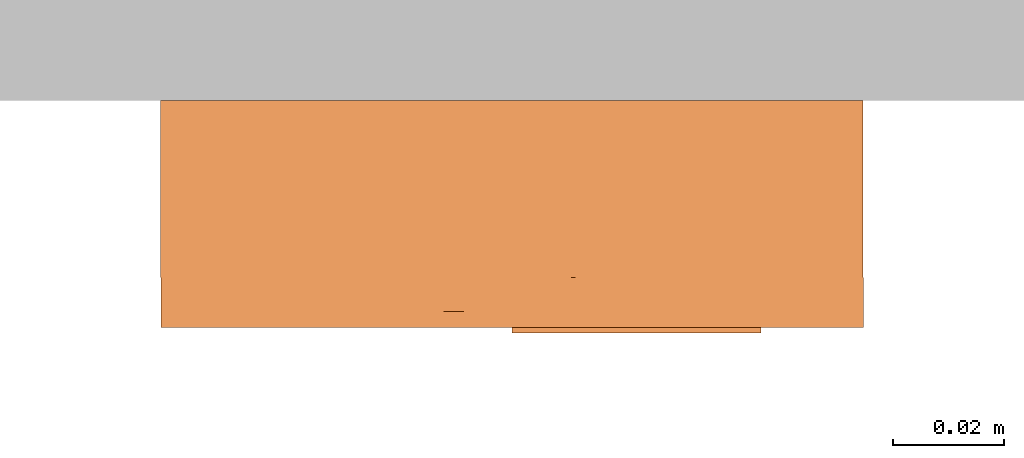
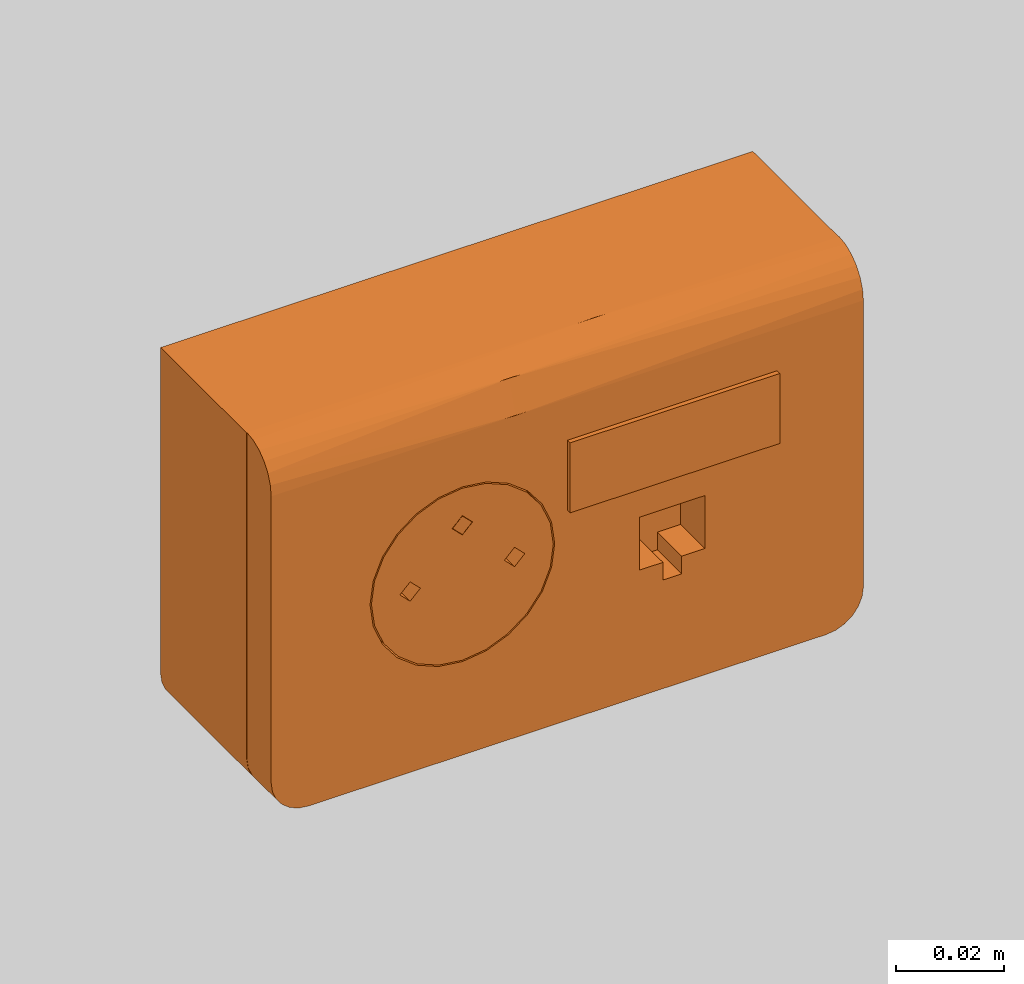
# One storey, part 114 of 197: 1 proxy.
"""IFC2X3 building model written with IfcOpenShell, lengths in metres."""

from ifc_helpers import new_model, entity, si_unit, converted_unit, direction, frame, origin, place, context, subcontext, project, spatial, faceted_brep, source, transform, mapped, material, material_list, type_object, type_shapes, element, save


model = new_model("IFC2X3")

# Units and contexts
model_context = context("Model", 3, precision=1e-05, world=origin(), true_north=direction((6.123031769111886e-17, 1.0)))
body_context = subcontext(model_context, "Body", "Model", "MODEL_VIEW")
ifc_project = project(units=[si_unit("LENGTHUNIT", "METRE"), converted_unit("PLANEANGLEUNIT", "DEGREE", entity("IfcPlaneAngleMeasure", 0.017453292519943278), si_unit("PLANEANGLEUNIT", "RADIAN"), dimensions=[0, 0, 0, 0, 0, 0, 0]), si_unit("AREAUNIT", "SQUARE_METRE")], contexts=[model_context])

# Site, building, storey
site_placement = place(None, origin())
site = spatial("IfcSite", under=ifc_project, at=site_placement, Name="Default", CompositionType="ELEMENT")
building_placement = place(site_placement, origin())
building = spatial("IfcBuilding", under=site, at=building_placement, CompositionType="ELEMENT")
storey_placement = place(building_placement, origin())
storey = spatial("IfcBuildingStorey", under=building, at=storey_placement, Name="Niveau 0", CompositionType="ELEMENT", Elevation=0.0)

# Proxy
ifc_material_1 = material(Name="BETCE-ENJOLIVEUR PC-BLANC")
ifc_material_2 = material(Name="BETCE-ENJOLIVEUR RJ-BLANC")
ifc_material_3 = material(Name="BETCE-PCO-ROUGE")
ifc_material_4 = material(Name="BETCE-ETIQUETTE RJ-BLEU")
ifc_material_5 = material(Name="<Unnamed>")
ifc_material_list = material_list([ifc_material_1, ifc_material_2, ifc_material_3, ifc_material_4, ifc_material_5])
building_element_proxy_type = type_object("IfcBuildingElementProxyType", Name="Poste travail saillie 1x2 modules-1RJ:1PCO+1RJ", PredefinedType="NOTDEFINED", material=ifc_material_list)
shared_shape = source(origin(), body_context, "Body", "Brep", [
    faceted_brep([(0.055499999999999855, -0.03199999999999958, -0.040999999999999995), (0.05757055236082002, -0.031999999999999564, -0.04072740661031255), (0.05949999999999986, -0.03199999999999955, -0.03992820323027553), (0.061156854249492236, -0.03199999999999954, -0.0386568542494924), (0.06242820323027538, -0.03199999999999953, -0.03700000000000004), (0.06322740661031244, -0.03199999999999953, -0.03507055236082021), (0.06349999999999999, -0.03199999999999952, -0.032999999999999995), (0.06349999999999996, -0.03199999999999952, 0.04092306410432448), (-0.06350000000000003, -0.03200000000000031, 0.04092306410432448), (-0.06350000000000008, -0.03200000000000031, -0.032999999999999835), (-0.06322740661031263, -0.03200000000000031, -0.03507055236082), (-0.062428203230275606, -0.032000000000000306, -0.03699999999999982), (-0.06115685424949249, -0.0320000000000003, -0.0386568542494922), (-0.05950000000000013, -0.03200000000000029, -0.03992820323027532), (-0.0575705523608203, -0.03200000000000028, -0.040727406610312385), (-0.05550000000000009, -0.032000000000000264, -0.040999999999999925), (-0.06350000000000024, 0.0, -0.032999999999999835), (-0.06350000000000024, 0.0, 0.04092306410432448), (0.06349999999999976, 0.0, 0.04092306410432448), (0.0634999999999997, 0.0, -0.03299999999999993), (0.06322740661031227, 0.0, -0.0350705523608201), (0.062428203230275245, 0.0, -0.036999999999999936), (0.06115685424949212, 0.0, -0.038656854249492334), (0.059499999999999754, 0.0, -0.039928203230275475), (0.057570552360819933, 0.0, -0.040727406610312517), (0.0554999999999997, 0.0, -0.040999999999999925), (-0.05550000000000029, 0.0, -0.04099999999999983), (-0.05757055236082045, 0.0, -0.040727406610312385), (-0.05950000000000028, 0.0, -0.03992820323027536), (-0.06115685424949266, 0.0, -0.03865685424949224), (-0.062428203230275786, 0.0, -0.03699999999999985), (-0.06322740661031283, 0.0, -0.03507055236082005)], [[[0, 1, 2, 3, 4, 5, 6, 7, 8, 9, 10, 11, 12, 13, 14, 15]], [[16, 17, 18, 19, 20, 21, 22, 23, 24, 25, 26, 27, 28, 29, 30, 31]], [[9, 8, 17, 16]], [[0, 15, 26, 25]], [[7, 6, 19, 18]], [[8, 7, 18, 17]], [[26, 15, 14, 27]], [[27, 14, 13, 28]], [[28, 13, 12, 29]], [[30, 11, 10, 31]], [[31, 10, 9, 16]], [[29, 12, 11, 30]], [[20, 19, 6, 5]], [[21, 20, 5, 4]], [[22, 21, 4, 3]], [[23, 22, 3, 2]], [[24, 23, 2, 1]], [[0, 25, 24, 1]]]),
    faceted_brep([(0.04504803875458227, -0.04099309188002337, 0.02249999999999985), (4.80387545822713e-05, -0.04099309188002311, 0.02249999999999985), (4.803875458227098e-05, -0.04099309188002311, -0.02250000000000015), (0.04504803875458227, -0.04099309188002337, -0.02250000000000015), (0.01554803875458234, -0.040993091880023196, -0.0003655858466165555), (0.022402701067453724, -0.040993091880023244, -0.0003655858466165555), (0.029548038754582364, -0.04099309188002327, -0.0003655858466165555), (0.029548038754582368, -0.04099309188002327, -0.012365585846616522), (0.024548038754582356, -0.04099309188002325, -0.012365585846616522), (0.024548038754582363, -0.04099309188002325, -0.01636558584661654), (0.02054803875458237, -0.04099309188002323, -0.01636558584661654), (0.020548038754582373, -0.04099309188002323, -0.012365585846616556), (0.01554803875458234, -0.040993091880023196, -0.012365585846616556), (0.04504803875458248, -0.002993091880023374, 0.02249999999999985), (0.04504803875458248, -0.002993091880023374, -0.02250000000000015), (4.80387545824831e-05, -0.002993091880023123, -0.02250000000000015), (4.80387545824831e-05, -0.002993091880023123, 0.02249999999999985), (0.01554803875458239, -0.031999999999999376, -0.0003655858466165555), (0.01554803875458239, -0.031999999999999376, -0.012365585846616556), (0.020548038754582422, -0.03199999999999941, -0.012365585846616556), (0.020548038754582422, -0.03199999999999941, -0.01636558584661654), (0.024548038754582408, -0.03199999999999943, -0.01636558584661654), (0.024548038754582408, -0.03199999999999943, -0.012365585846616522), (0.029548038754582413, -0.03199999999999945, -0.012365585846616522), (0.029548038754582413, -0.03199999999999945, -0.0003655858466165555), (0.022402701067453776, -0.03199999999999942, -0.0003655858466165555)], [[[0, 1, 2, 3], [4, 5, 6, 7, 8, 9, 10, 11, 12]], [[13, 14, 15, 16]], [[1, 0, 13, 16]], [[2, 1, 16, 15]], [[3, 2, 15, 14]], [[0, 3, 14, 13]], [[17, 18, 19, 20, 21, 22, 23, 24, 25]], [[17, 25, 5, 4]], [[25, 24, 6, 5]], [[24, 23, 7, 6]], [[23, 22, 8, 7]], [[22, 21, 9, 8]], [[21, 20, 10, 9]], [[20, 19, 11, 10]], [[19, 18, 12, 11]], [[18, 17, 4, 12]]]),
    faceted_brep([(-0.042951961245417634, -0.031999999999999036, 0.020499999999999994), (-0.042951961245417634, -0.031999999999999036, -0.02050000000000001), (-0.0019519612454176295, -0.031999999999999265, -0.02050000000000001), (-0.0019519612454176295, -0.031999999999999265, 0.020499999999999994), (-0.04295196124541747, -0.0029930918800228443, 0.020499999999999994), (-0.0019519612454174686, -0.0029930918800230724, 0.020499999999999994), (-0.0019519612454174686, -0.0029930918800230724, -0.02050000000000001), (-0.04295196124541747, -0.0029930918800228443, -0.02050000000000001)], [[[0, 1, 2, 3]], [[4, 5, 6, 7]], [[1, 0, 4, 7]], [[2, 1, 7, 6]], [[3, 2, 6, 5]], [[0, 3, 5, 4]]]),
    faceted_brep([(-0.04495196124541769, -0.04099309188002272, 0.022500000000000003), (-0.03235196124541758, -0.040993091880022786, 0.017147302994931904), (-0.027576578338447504, -0.04099309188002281, 0.019125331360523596), (-0.0364526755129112, -0.040993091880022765, 0.014000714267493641), (-0.022451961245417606, -0.04099309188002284, 0.019800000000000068), (-0.03959926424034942, -0.04099309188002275, 0.009899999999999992), (-0.04157729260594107, -0.04099309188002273, 0.005124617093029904), (-0.042251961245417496, -0.04099309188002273, 0.0), (-0.04495196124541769, -0.04099309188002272, -0.022500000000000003), (4.8038754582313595e-05, -0.040993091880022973, 0.022500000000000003), (-0.04157729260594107, -0.04099309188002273, -0.005124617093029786), (-0.039599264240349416, -0.04099309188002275, -0.009899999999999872), (-0.03645267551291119, -0.040993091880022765, -0.014000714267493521), (-0.03235196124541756, -0.040993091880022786, -0.01714730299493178), (-0.02757657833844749, -0.04099309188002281, -0.01912533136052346), (-0.02245196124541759, -0.04099309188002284, -0.019799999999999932), (4.8038754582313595e-05, -0.040993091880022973, -0.0225), (-0.017327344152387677, -0.04099309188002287, -0.01912533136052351), (-0.012551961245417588, -0.0409930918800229, -0.01714730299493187), (-0.00845124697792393, -0.04099309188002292, -0.01400071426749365), (-0.005304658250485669, -0.04099309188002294, -0.009900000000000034), (-0.0033266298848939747, -0.040993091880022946, -0.005124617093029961), (-0.0026519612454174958, -0.04099309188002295, 0.0), (-0.017327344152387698, -0.04099309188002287, 0.019125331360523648), (-0.012551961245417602, -0.0409930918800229, 0.01714730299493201), (-0.008451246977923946, -0.04099309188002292, 0.014000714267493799), (-0.005304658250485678, -0.04099309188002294, 0.009900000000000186), (-0.0033266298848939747, -0.040993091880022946, 0.0051246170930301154), (-0.04495196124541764, -0.03199999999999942, -0.022500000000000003), (-0.03235196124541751, -0.03199999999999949, -0.01714730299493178), (-0.027576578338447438, -0.031999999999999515, -0.01912533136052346), (-0.036452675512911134, -0.031999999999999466, -0.014000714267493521), (-0.022451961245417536, -0.03199999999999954, -0.019799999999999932), (-0.03959926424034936, -0.031999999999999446, -0.009899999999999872), (-0.041577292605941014, -0.03199999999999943, -0.005124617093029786), (-0.04225196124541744, -0.03199999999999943, 0.0), (-0.04495196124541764, -0.03199999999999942, 0.022500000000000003), (4.8038754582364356e-05, -0.03199999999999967, -0.022500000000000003), (-0.041577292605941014, -0.03199999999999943, 0.005124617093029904), (-0.039599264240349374, -0.031999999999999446, 0.009899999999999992), (-0.03645267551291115, -0.031999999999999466, 0.014000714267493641), (-0.03235196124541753, -0.03199999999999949, 0.017147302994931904), (-0.027576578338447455, -0.031999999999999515, 0.019125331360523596), (-0.022451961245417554, -0.03199999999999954, 0.019800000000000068), (4.8038754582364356e-05, -0.03199999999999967, 0.022500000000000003), (-0.017327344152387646, -0.03199999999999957, 0.019125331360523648), (-0.012551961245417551, -0.0319999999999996, 0.01714730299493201), (-0.008451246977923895, -0.03199999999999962, 0.014000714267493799), (-0.0053046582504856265, -0.03199999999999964, 0.009900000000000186), (-0.003326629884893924, -0.03199999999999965, 0.0051246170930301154), (-0.002651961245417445, -0.031999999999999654, 0.0), (-0.017327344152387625, -0.03199999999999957, -0.01912533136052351), (-0.012551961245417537, -0.0319999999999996, -0.01714730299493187), (-0.008451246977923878, -0.03199999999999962, -0.01400071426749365), (-0.005304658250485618, -0.03199999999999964, -0.009900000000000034), (-0.003326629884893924, -0.03199999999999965, -0.005124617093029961)], [[[0, 1, 2]], [[1, 0, 3]], [[0, 2, 4]], [[5, 3, 0]], [[6, 5, 0]], [[7, 6, 0]], [[0, 8, 7]], [[4, 9, 0]], [[10, 7, 8]], [[11, 10, 8]], [[12, 11, 8]], [[8, 13, 12]], [[13, 8, 14]], [[15, 14, 8]], [[8, 16, 15]], [[17, 15, 16]], [[18, 17, 16]], [[16, 19, 18]], [[19, 16, 20]], [[21, 20, 16]], [[22, 21, 16]], [[22, 16, 9]], [[9, 4, 23]], [[9, 23, 24]], [[24, 25, 9]], [[25, 26, 9]], [[26, 27, 9]], [[9, 27, 22]], [[28, 29, 30]], [[29, 28, 31]], [[28, 30, 32]], [[33, 31, 28]], [[34, 33, 28]], [[35, 34, 28]], [[28, 36, 35]], [[32, 37, 28]], [[38, 35, 36]], [[39, 38, 36]], [[40, 39, 36]], [[36, 41, 40]], [[41, 36, 42]], [[43, 42, 36]], [[36, 44, 43]], [[45, 43, 44]], [[46, 45, 44]], [[44, 47, 46]], [[47, 44, 48]], [[49, 48, 44]], [[50, 49, 44]], [[50, 44, 37]], [[37, 32, 51]], [[37, 51, 52]], [[52, 53, 37]], [[53, 54, 37]], [[54, 55, 37]], [[37, 55, 50]], [[36, 28, 8, 0]], [[44, 36, 0, 9]], [[37, 44, 9, 16]], [[28, 37, 16, 8]], [[35, 7, 10, 34]], [[34, 10, 11, 33]], [[29, 31, 12, 13]], [[12, 31, 33, 11]], [[30, 29, 13, 14]], [[30, 14, 15, 32]], [[32, 15, 17, 51]], [[51, 17, 18, 52]], [[54, 53, 19, 20]], [[19, 53, 52, 18]], [[55, 54, 20, 21]], [[55, 21, 22, 50]], [[50, 22, 27, 49]], [[49, 27, 26, 48]], [[46, 47, 25, 24]], [[25, 47, 48, 26]], [[45, 46, 24, 23]], [[45, 23, 4, 43]], [[43, 4, 2, 42]], [[42, 2, 1, 41]], [[39, 40, 3, 5]], [[3, 40, 41, 1]], [[38, 39, 5, 6]], [[38, 6, 7, 35]]]),
    faceted_brep([(-0.03365196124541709, -0.03199999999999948, -0.002199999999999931), (-0.03220196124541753, -0.03199999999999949, -0.016887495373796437), (-0.03624054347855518, -0.031999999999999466, -0.013788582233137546), (-0.0274989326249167, -0.031999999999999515, -0.018835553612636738), (-0.039339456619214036, -0.031999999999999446, -0.009749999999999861), (-0.03145196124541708, -0.031999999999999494, 0.0), (-0.0412875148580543, -0.03199999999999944, -0.005046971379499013), (-0.03585196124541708, -0.031999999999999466, 0.0), (-0.02245196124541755, -0.03199999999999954, -0.019499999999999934), (-0.013451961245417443, -0.0319999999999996, 0.0), (-0.022451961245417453, -0.03199999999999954, 0.008900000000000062), (-0.024651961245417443, -0.03199999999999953, 0.011100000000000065), (-0.03365196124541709, -0.03199999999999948, 0.0022000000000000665), (-0.04128751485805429, -0.03199999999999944, 0.005046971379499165), (-0.039339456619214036, -0.031999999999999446, 0.009750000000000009), (-0.036240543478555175, -0.031999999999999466, 0.013788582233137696), (-0.032201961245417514, -0.03199999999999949, 0.016887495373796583), (-0.02749893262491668, -0.031999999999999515, 0.01883555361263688), (-0.022451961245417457, -0.03199999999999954, 0.013300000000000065), (-0.020251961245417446, -0.03199999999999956, 0.011100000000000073), (-0.01740498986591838, -0.03199999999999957, 0.018835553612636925), (-0.012701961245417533, -0.0319999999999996, 0.016887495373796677), (-0.008663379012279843, -0.03199999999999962, 0.013788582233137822), (-0.011251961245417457, -0.031999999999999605, 0.0022000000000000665), (-0.005564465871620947, -0.03199999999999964, 0.00975000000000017), (-0.0036164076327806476, -0.03199999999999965, 0.005046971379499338), (-0.009051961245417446, -0.03199999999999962, 0.0), (-0.0174049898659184, -0.03199999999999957, -0.018835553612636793), (-0.011251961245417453, -0.031999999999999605, -0.002199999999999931), (-0.012701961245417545, -0.0319999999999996, -0.016887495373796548), (-0.008663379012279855, -0.03199999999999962, -0.013788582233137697), (-0.005564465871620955, -0.03199999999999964, -0.009750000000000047), (-0.0036164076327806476, -0.03199999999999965, -0.00504697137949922), (-0.0029519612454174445, -0.03199999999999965, 0.0), (-0.041951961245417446, -0.03199999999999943, 0.0), (-0.022451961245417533, -0.03199999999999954, 0.01950000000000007), (-0.03220196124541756, -0.040993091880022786, 0.016887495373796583), (-0.03624054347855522, -0.040993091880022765, 0.013788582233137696), (-0.024651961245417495, -0.04099309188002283, 0.011100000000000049), (-0.027498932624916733, -0.04099309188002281, 0.01883555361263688), (-0.033651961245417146, -0.04099309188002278, 0.0022000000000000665), (-0.039339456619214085, -0.04099309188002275, 0.009750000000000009), (-0.04128751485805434, -0.04099309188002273, 0.005046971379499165), (-0.03585196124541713, -0.040993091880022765, 0.0), (-0.041951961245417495, -0.04099309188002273, 0.0), (-0.041287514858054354, -0.04099309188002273, -0.005046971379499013), (-0.03365196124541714, -0.04099309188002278, -0.002199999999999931), (-0.039339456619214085, -0.04099309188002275, -0.009749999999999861), (-0.03624054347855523, -0.040993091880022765, -0.013788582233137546), (-0.03220196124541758, -0.040993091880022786, -0.016887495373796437), (-0.02749893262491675, -0.04099309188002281, -0.018835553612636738), (-0.03145196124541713, -0.04099309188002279, 0.0), (-0.022451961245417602, -0.04099309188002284, -0.019499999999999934), (-0.013451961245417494, -0.0409930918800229, 0.0), (-0.017404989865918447, -0.04099309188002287, -0.018835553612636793), (-0.011251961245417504, -0.040993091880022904, -0.002199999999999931), (-0.012701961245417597, -0.0409930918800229, -0.016887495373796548), (-0.008663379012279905, -0.04099309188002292, -0.013788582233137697), (-0.005564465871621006, -0.04099309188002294, -0.009750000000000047), (-0.0036164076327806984, -0.040993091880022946, -0.00504697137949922), (-0.009051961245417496, -0.04099309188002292, 0.0), (-0.0029519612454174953, -0.04099309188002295, 0.0), (-0.0036164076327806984, -0.040993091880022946, 0.005046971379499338), (-0.011251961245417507, -0.040993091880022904, 0.0022000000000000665), (-0.005564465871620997, -0.04099309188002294, 0.00975000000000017), (-0.008663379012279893, -0.04099309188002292, 0.013788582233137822), (-0.020251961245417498, -0.04099309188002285, 0.011100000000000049), (-0.012701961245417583, -0.0409930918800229, 0.016887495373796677), (-0.017404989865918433, -0.04099309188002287, 0.018835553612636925), (-0.02245196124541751, -0.04099309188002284, 0.013300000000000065), (-0.022451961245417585, -0.04099309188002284, 0.01950000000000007), (-0.022451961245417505, -0.04099309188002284, 0.008900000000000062)], [[[0, 1, 2]], [[0, 3, 1]], [[2, 4, 0]], [[0, 5, 3]], [[6, 0, 4]], [[7, 0, 6]], [[3, 5, 8]], [[8, 5, 9]], [[9, 5, 10]], [[10, 5, 11]], [[12, 11, 5]], [[13, 12, 7]], [[13, 14, 12]], [[12, 14, 15]], [[15, 11, 12]], [[15, 16, 11]], [[17, 11, 16]], [[11, 17, 18]], [[19, 9, 10]], [[18, 20, 19]], [[21, 19, 20]], [[19, 21, 22]], [[19, 22, 23]], [[9, 19, 23]], [[24, 23, 22]], [[23, 24, 25]], [[26, 23, 25]], [[27, 8, 9]], [[28, 27, 9]], [[28, 29, 27]], [[28, 30, 29]], [[28, 31, 30]], [[28, 32, 31]], [[32, 28, 26]], [[32, 26, 33]], [[33, 26, 25]], [[6, 34, 7]], [[7, 34, 13]], [[18, 17, 35]], [[20, 18, 35]], [[36, 37, 38]], [[38, 39, 36]], [[37, 40, 38]], [[40, 37, 41]], [[41, 42, 40]], [[40, 42, 43]], [[44, 43, 42]], [[44, 45, 43]], [[46, 43, 45]], [[45, 47, 46]], [[46, 47, 48]], [[49, 46, 48]], [[46, 49, 50]], [[51, 46, 50]], [[51, 50, 52]], [[52, 53, 51]], [[53, 52, 54]], [[55, 53, 54]], [[54, 56, 55]], [[56, 57, 55]], [[55, 57, 58]], [[58, 59, 55]], [[60, 55, 59]], [[59, 61, 60]], [[61, 62, 60]], [[62, 63, 60]], [[64, 63, 62]], [[64, 65, 63]], [[63, 65, 66]], [[66, 65, 67]], [[66, 67, 68]], [[66, 68, 69]], [[68, 70, 69]], [[70, 39, 69]], [[69, 39, 38]], [[53, 66, 71]], [[63, 66, 53]], [[71, 51, 53]], [[38, 51, 71]], [[38, 40, 51]], [[42, 13, 34, 44]], [[41, 14, 13, 42]], [[15, 37, 36, 16]], [[41, 37, 15, 14]], [[16, 36, 39, 17]], [[17, 39, 70, 35]], [[67, 21, 20, 68]], [[65, 22, 21, 67]], [[24, 64, 62, 25]], [[65, 64, 24, 22]], [[25, 62, 61, 33]], [[20, 35, 70, 68]], [[59, 32, 33, 61]], [[58, 31, 32, 59]], [[30, 57, 56, 29]], [[58, 57, 30, 31]], [[29, 56, 54, 27]], [[27, 54, 52, 8]], [[49, 1, 3, 50]], [[48, 2, 1, 49]], [[4, 47, 45, 6]], [[48, 47, 4, 2]], [[6, 45, 44, 34]], [[3, 8, 52, 50]], [[71, 10, 11, 38]], [[66, 19, 10, 71]], [[69, 18, 19, 66]], [[38, 11, 18, 69]], [[55, 28, 9, 53]], [[60, 26, 28, 55]], [[63, 23, 26, 60]], [[53, 9, 23, 63]], [[46, 0, 7, 43]], [[51, 5, 0, 46]], [[40, 12, 5, 51]], [[43, 7, 12, 40]]]),
    faceted_brep([(0.06354803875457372, -0.0409930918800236, -0.033000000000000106), (0.06354803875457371, -0.0409930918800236, 0.0320000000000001), (0.04504803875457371, -0.040993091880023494, -0.022500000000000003), (0.055548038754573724, -0.040993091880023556, -0.041), (0.05761859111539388, -0.04099309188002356, -0.04072740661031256), (0.059548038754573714, -0.04099309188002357, -0.039928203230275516), (0.06120489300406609, -0.04099309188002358, -0.03865685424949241), (0.06327544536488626, -0.0409930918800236, -0.03507055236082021), (0.04504803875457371, -0.040993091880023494, 0.022500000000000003), (-0.04495196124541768, -0.040993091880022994, 0.022500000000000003), (-0.011076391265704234, -0.040993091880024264, 0.03200000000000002), (-0.0634519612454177, -0.04099309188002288, 0.0320000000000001), (-0.04495196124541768, -0.040993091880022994, -0.022500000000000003), (-0.06345196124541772, -0.04099309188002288, -0.033), (-0.05545196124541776, -0.04099309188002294, -0.041), (-0.05752251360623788, -0.04099309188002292, -0.04072740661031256), (-0.05945196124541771, -0.04099309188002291, -0.039928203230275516), (-0.061108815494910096, -0.040993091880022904, -0.038656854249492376), (-0.06317936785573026, -0.0409930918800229, -0.03507055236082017), (-0.062380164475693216, -0.0409930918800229, -0.037), (0.06247624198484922, -0.04099309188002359, -0.03700000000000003), (-0.06345196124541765, -0.0319999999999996, -0.033), (-0.06345196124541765, -0.0319999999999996, 0.040999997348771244), (-0.04495196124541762, -0.031999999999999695, 0.022500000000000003), (-0.04495196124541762, -0.031999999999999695, -0.022500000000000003), (-0.05545196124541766, -0.03199999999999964, -0.041), (-0.05752251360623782, -0.031999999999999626, -0.04072740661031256), (-0.05945196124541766, -0.03199999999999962, -0.039928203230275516), (-0.06317936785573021, -0.0319999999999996, -0.03507055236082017), (0.011172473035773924, -0.03200000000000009, 0.040999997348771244), (0.06354803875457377, -0.0320000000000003, 0.041000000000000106), (0.045048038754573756, -0.0320000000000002, 0.022500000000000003), (0.06354803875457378, -0.0320000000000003, -0.03300000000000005), (0.045048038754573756, -0.0320000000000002, -0.022500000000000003), (0.05554803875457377, -0.03200000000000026, -0.041), (0.057618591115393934, -0.032000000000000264, -0.04072740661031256), (0.05954803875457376, -0.03200000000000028, -0.039928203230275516), (0.0632754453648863, -0.0320000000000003, -0.03507055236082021), (0.06120489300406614, -0.03200000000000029, -0.03865685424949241), (0.062476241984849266, -0.0320000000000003, -0.03700000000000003), (-0.06110881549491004, -0.031999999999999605, -0.038656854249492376), (-0.06238016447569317, -0.0319999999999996, -0.037), (0.06354803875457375, -0.03432802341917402, 0.040691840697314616), (0.06354803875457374, -0.036497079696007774, 0.03979192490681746), (0.06354803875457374, -0.03835949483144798, 0.03836151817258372), (0.06354803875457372, -0.03978847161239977, 0.03649800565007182), (0.06354803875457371, -0.04068672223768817, 0.03432825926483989), (-0.06345196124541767, -0.034328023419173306, 0.04069184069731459), (-0.0634519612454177, -0.04068672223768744, 0.03432825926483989), (-0.06345196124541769, -0.03978847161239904, 0.036498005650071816), (-0.06345196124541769, -0.03835949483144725, 0.03836151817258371), (-0.06345196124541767, -0.03649707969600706, 0.03979192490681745), (-0.010828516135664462, -0.038115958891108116, 0.03859624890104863)], [[[0, 1, 2]], [[3, 0, 2]], [[0, 3, 4]], [[0, 4, 5]], [[5, 6, 0]], [[7, 0, 6]], [[2, 1, 8]], [[1, 9, 8]], [[9, 1, 10]], [[9, 10, 11]], [[12, 9, 11]], [[13, 12, 11]], [[14, 12, 13]], [[14, 13, 15]], [[16, 15, 13]], [[13, 17, 16]], [[17, 13, 18]], [[17, 18, 19]], [[12, 14, 3]], [[2, 12, 3]], [[20, 7, 6]], [[21, 22, 23]], [[24, 21, 23]], [[25, 21, 24]], [[21, 25, 26]], [[21, 26, 27]], [[28, 21, 27]], [[23, 22, 29]], [[23, 29, 30]], [[31, 23, 30]], [[32, 31, 30]], [[33, 31, 32]], [[34, 33, 32]], [[34, 32, 35]], [[36, 35, 32]], [[36, 32, 37]], [[37, 38, 36]], [[38, 37, 39]], [[33, 34, 25]], [[24, 33, 25]], [[27, 40, 28]], [[41, 28, 40]], [[1, 0, 32, 30, 42, 43, 44, 45, 46]], [[37, 32, 0, 7]], [[39, 37, 7, 20]], [[38, 39, 20, 6]], [[36, 38, 6, 5]], [[35, 36, 5, 4]], [[34, 35, 4, 3]], [[25, 34, 3, 14]], [[26, 25, 14, 15]], [[27, 26, 15, 16]], [[40, 27, 16, 17]], [[41, 40, 17, 19]], [[28, 41, 19, 18]], [[21, 28, 18, 13]], [[47, 22, 21, 13, 11, 48, 49, 50, 51]], [[24, 23, 9, 12]], [[33, 24, 12, 2]], [[31, 33, 2, 8]], [[23, 31, 8, 9]], [[52, 10, 45]], [[48, 11, 10]], [[1, 46, 10]], [[44, 52, 45]], [[46, 45, 10]], [[51, 52, 47]], [[49, 48, 10]], [[29, 52, 43]], [[49, 52, 50]], [[42, 30, 29]], [[29, 22, 47]], [[49, 10, 52]], [[29, 43, 42]], [[44, 43, 52]], [[52, 51, 50]], [[52, 29, 47]]]),
    faceted_brep([(0.04504803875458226, -0.04199309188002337, 0.02249999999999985), (4.803875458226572e-05, -0.04199309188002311, 0.02249999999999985), (4.803875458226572e-05, -0.04199309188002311, 0.006634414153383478), (0.04504803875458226, -0.04199309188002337, 0.006634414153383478), (0.04504803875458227, -0.04099309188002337, 0.02249999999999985), (0.04504803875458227, -0.04099309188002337, 0.006634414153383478), (4.80387545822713e-05, -0.04099309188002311, 0.006634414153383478), (4.80387545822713e-05, -0.04099309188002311, 0.02249999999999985)], [[[0, 1, 2, 3]], [[4, 5, 6, 7]], [[1, 0, 4, 7]], [[2, 1, 7, 6]], [[3, 2, 6, 5]], [[0, 3, 5, 4]]]),
    faceted_brep([(-0.022451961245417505, -0.040993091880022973, 0.009000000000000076), (-0.020351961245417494, -0.04099309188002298, 0.011100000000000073), (-0.02245196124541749, -0.040993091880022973, 0.013200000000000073), (-0.024551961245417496, -0.04099309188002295, 0.01110000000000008), (-0.024551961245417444, -0.03199999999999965, 0.01110000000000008), (-0.02245196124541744, -0.03199999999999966, 0.013200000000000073), (-0.020351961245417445, -0.031999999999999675, 0.011100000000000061), (-0.022451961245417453, -0.03199999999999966, 0.009000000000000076)], [[[0, 1, 2, 3]], [[4, 5, 6, 7]], [[3, 4, 7, 0]], [[7, 6, 1, 0]], [[1, 6, 5, 2]], [[5, 4, 3, 2]]]),
])
type_shapes(building_element_proxy_type, [shared_shape])
proxy_placement = place(storey_placement, frame((-386.7931637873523, 89.39154659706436, 0.49999999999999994)))
element("IfcBuildingElementProxy", 1, at=proxy_placement, inside=storey, type_object=building_element_proxy_type, material=ifc_material_list, Name="Poste travail saillie 1x2 modules-1RJ:1PCO+1RJ", ObjectType="Poste travail saillie 1x2 modules-1RJ:1PCO+1RJ", context=body_context, shape_type="MappedRepresentation", body=[
    mapped(shared_shape, transform((0.0, 0.0, 0.0), scale=1.0)),
])

save(model, "model.ifc")
